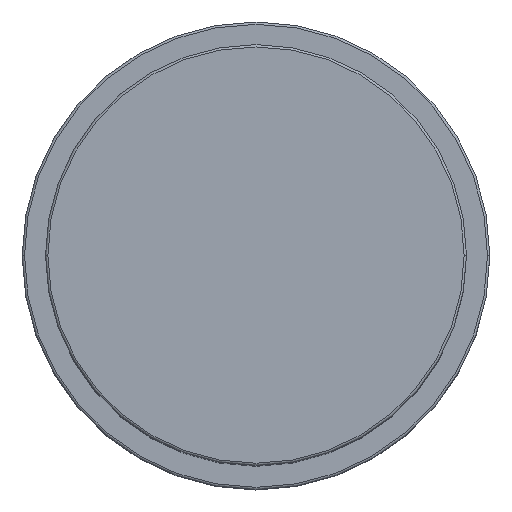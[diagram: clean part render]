
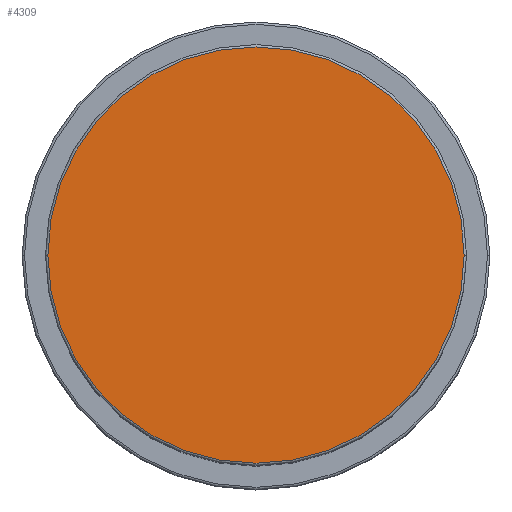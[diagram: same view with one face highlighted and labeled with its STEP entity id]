
A CAD part, top view. The second image highlights one B-rep face of the part: STEP entity #4309.
In plain terms, the highlighted planar face has unit normal (0, 0, 1).
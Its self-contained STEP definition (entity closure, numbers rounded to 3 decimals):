
#251 = PLANE ( 'NONE',  #5244 ) ;
#319 = DIRECTION ( 'NONE',  ( 0., 0., 1. ) ) ;
#543 = CIRCLE ( 'NONE', #5332, 44.5 ) ;
#1050 = ORIENTED_EDGE ( 'NONE', *, *, #4577, .T. ) ;
#1489 = CARTESIAN_POINT ( 'NONE',  ( -44.5, 0., 112. ) ) ;
#1833 = DIRECTION ( 'NONE',  ( 0., 0., 1. ) ) ;
#1919 = AXIS2_PLACEMENT_3D ( 'NONE', #2984, #1833, #4027 ) ;
#1937 = DIRECTION ( 'NONE',  ( 0., 0., 1. ) ) ;
#2031 = CARTESIAN_POINT ( 'NONE',  ( 0., 0., 112. ) ) ;
#2200 = EDGE_LOOP ( 'NONE', ( #1050, #6867 ) ) ;
#2984 = CARTESIAN_POINT ( 'NONE',  ( 0., 0., 112. ) ) ;
#3697 = CARTESIAN_POINT ( 'NONE',  ( 44.5, 0., 112. ) ) ;
#3756 = VERTEX_POINT ( 'NONE', #1489 ) ;
#4027 = DIRECTION ( 'NONE',  ( 1., 0., 0. ) ) ;
#4309 = ADVANCED_FACE ( 'NONE', ( #4396 ), #251, .T. ) ;
#4396 = FACE_OUTER_BOUND ( 'NONE', #2200, .T. ) ;
#4577 = EDGE_CURVE ( 'NONE', #5574, #3756, #543, .T. ) ;
#4717 = DIRECTION ( 'NONE',  ( 1., 0., 0. ) ) ;
#4743 = CARTESIAN_POINT ( 'NONE',  ( 0., 0., 112. ) ) ;
#5244 = AXIS2_PLACEMENT_3D ( 'NONE', #4743, #1937, #4717 ) ;
#5332 = AXIS2_PLACEMENT_3D ( 'NONE', #2031, #319, #5933 ) ;
#5574 = VERTEX_POINT ( 'NONE', #3697 ) ;
#5933 = DIRECTION ( 'NONE',  ( 1., 0., 0. ) ) ;
#6020 = EDGE_CURVE ( 'NONE', #3756, #5574, #6301, .T. ) ;
#6301 = CIRCLE ( 'NONE', #1919, 44.5 ) ;
#6867 = ORIENTED_EDGE ( 'NONE', *, *, #6020, .T. ) ;
